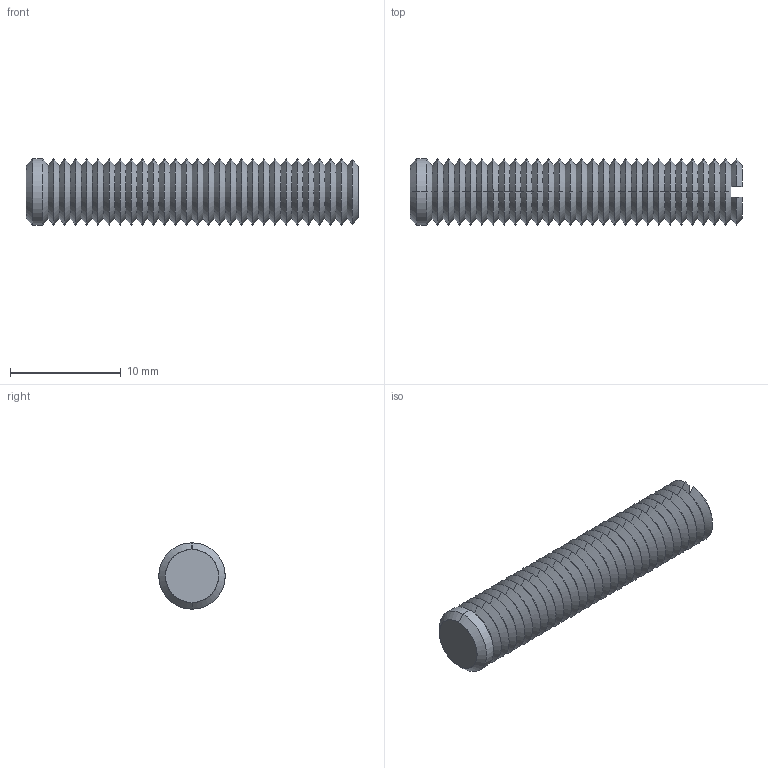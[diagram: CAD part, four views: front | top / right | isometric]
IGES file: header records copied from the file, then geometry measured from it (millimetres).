
Start section: SolidWorks IGES file using analytic representation for surfaces
Global section: file name: C:\Documents and Settings\IANO\Desktop\Temp File\Process pending\EXISTING\34300_v2\34300_v2_20170622_IGES\34300.W0062.igs; native system: SolidWorks 2009; preprocessor: SolidWorks 2009; author: IANO; date: 170622.093556; units: millimetre
Bounding box: 30 x 6 x 6 mm (x, y, z)
Surface area: 844.6 mm2 (no closed solid volume)
Topology: 0 solids, 0 shells, 124 faces, 560 edges, 560 vertices
Faces by surface type: revolution 118, bspline 6
